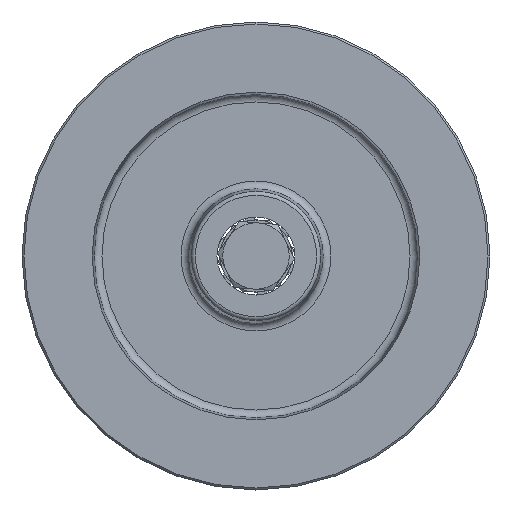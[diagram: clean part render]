
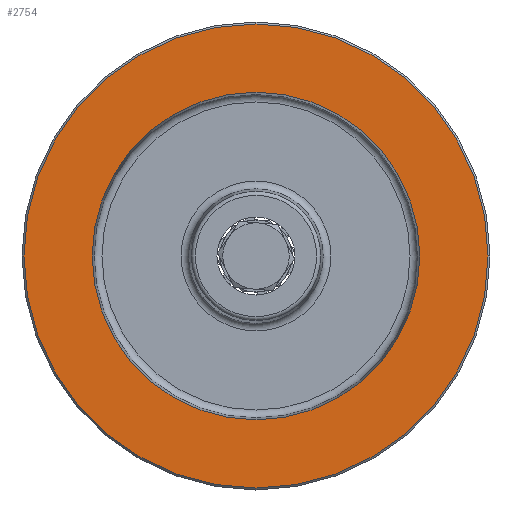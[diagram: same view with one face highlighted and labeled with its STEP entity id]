
A CAD part, left-side view. The second image highlights one B-rep face of the part: STEP entity #2754.
In plain terms, the highlighted planar face has unit normal (-1, 0, 0) as drawn and (1, 0, 0) by its records, which use the part's own axes.
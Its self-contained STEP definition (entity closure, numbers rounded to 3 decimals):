
#199=CIRCLE('',#3074,42.);
#215=CIRCLE('',#3101,59.5);
#347=FACE_BOUND('',#688,.T.);
#401=PLANE('',#3100);
#508=FACE_OUTER_BOUND('',#687,.T.);
#687=EDGE_LOOP('',(#2196));
#688=EDGE_LOOP('',(#2197));
#1310=VERTEX_POINT('',#4772);
#1322=VERTEX_POINT('',#4815);
#1615=EDGE_CURVE('',#1310,#1310,#199,.T.);
#1634=EDGE_CURVE('',#1322,#1322,#215,.T.);
#2196=ORIENTED_EDGE('',*,*,#1634,.F.);
#2197=ORIENTED_EDGE('',*,*,#1615,.T.);
#2754=ADVANCED_FACE('',(#508,#347),#401,.T.);
#3074=AXIS2_PLACEMENT_3D('',#4774,#3525,#3526);
#3100=AXIS2_PLACEMENT_3D('',#4814,#3580,#3581);
#3101=AXIS2_PLACEMENT_3D('',#4816,#3582,#3583);
#3525=DIRECTION('center_axis',(-1.,0.,0.));
#3526=DIRECTION('ref_axis',(0.,-1.,0.));
#3580=DIRECTION('center_axis',(1.,0.,0.));
#3581=DIRECTION('ref_axis',(0.,0.,-1.));
#3582=DIRECTION('center_axis',(-1.,0.,0.));
#3583=DIRECTION('ref_axis',(0.,-1.,0.));
#4772=CARTESIAN_POINT('',(11.5,42.,0.));
#4774=CARTESIAN_POINT('Origin',(11.5,0.,0.));
#4814=CARTESIAN_POINT('Origin',(11.5,-50.75,0.));
#4815=CARTESIAN_POINT('',(11.5,59.5,0.));
#4816=CARTESIAN_POINT('Origin',(11.5,0.,0.));
